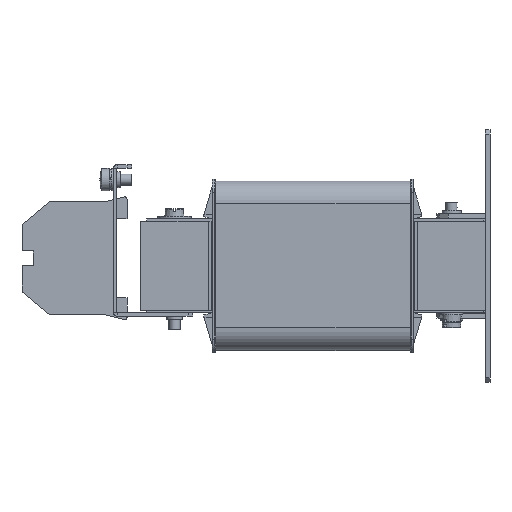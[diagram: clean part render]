
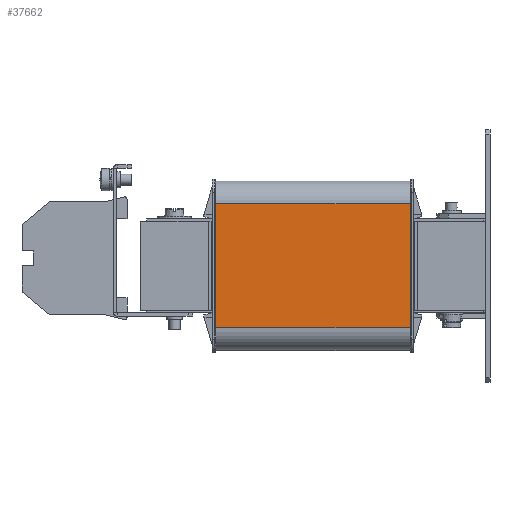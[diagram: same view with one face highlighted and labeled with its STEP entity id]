
A CAD part, left-side view. The second image highlights one B-rep face of the part: STEP entity #37662.
In plain terms, the highlighted planar face has unit normal (-1, 0, 0).
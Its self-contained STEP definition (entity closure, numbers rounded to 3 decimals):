
#717 = CARTESIAN_POINT ( 'NONE',  ( 0., 86.2, 0. ) ) ;
#7134 = VECTOR ( 'NONE', #50091, 1000. ) ;
#8039 = EDGE_CURVE ( 'NONE', #17326, #28174, #32970, .T. ) ;
#9481 = CARTESIAN_POINT ( 'NONE',  ( 0., 86.2, -65. ) ) ;
#9630 = CARTESIAN_POINT ( 'NONE',  ( 0., 86.2, -65. ) ) ;
#10076 = DIRECTION ( 'NONE',  ( 0., 0., 1. ) ) ;
#10219 = EDGE_LOOP ( 'NONE', ( #37893, #32401, #27591, #22294 ) ) ;
#11980 = CARTESIAN_POINT ( 'NONE',  ( 0., 86.2, -10. ) ) ;
#13079 = EDGE_CURVE ( 'NONE', #44719, #23030, #34241, .T. ) ;
#13463 = DIRECTION ( 'NONE',  ( 0., 0., -1. ) ) ;
#13537 = DIRECTION ( 'NONE',  ( 1., 0., 0. ) ) ;
#14701 = CARTESIAN_POINT ( 'NONE',  ( 0., 86.2, 0. ) ) ;
#15566 = PLANE ( 'NONE',  #27764 ) ;
#17326 = VERTEX_POINT ( 'NONE', #9630 ) ;
#18002 = EDGE_CURVE ( 'NONE', #17326, #44719, #40546, .T. ) ;
#18472 = VECTOR ( 'NONE', #31879, 1000. ) ;
#21661 = CARTESIAN_POINT ( 'NONE',  ( 0., 0., 0. ) ) ;
#22294 = ORIENTED_EDGE ( 'NONE', *, *, #45227, .T. ) ;
#23030 = VERTEX_POINT ( 'NONE', #28239 ) ;
#24175 = LINE ( 'NONE', #11980, #18472 ) ;
#27358 = CARTESIAN_POINT ( 'NONE',  ( 0., 86.2, -10. ) ) ;
#27591 = ORIENTED_EDGE ( 'NONE', *, *, #13079, .T. ) ;
#27764 = AXIS2_PLACEMENT_3D ( 'NONE', #14701, #13537, #13463 ) ;
#28174 = VERTEX_POINT ( 'NONE', #27358 ) ;
#28239 = CARTESIAN_POINT ( 'NONE',  ( 0., 0., -10. ) ) ;
#31879 = DIRECTION ( 'NONE',  ( 0., 1., 0. ) ) ;
#32401 = ORIENTED_EDGE ( 'NONE', *, *, #18002, .T. ) ;
#32970 = LINE ( 'NONE', #717, #33034 ) ;
#33034 = VECTOR ( 'NONE', #43518, 1000. ) ;
#34241 = LINE ( 'NONE', #21661, #34290 ) ;
#34290 = VECTOR ( 'NONE', #10076, 1000. ) ;
#37096 = CARTESIAN_POINT ( 'NONE',  ( 0., 0., -65. ) ) ;
#37662 = ADVANCED_FACE ( 'NONE', ( #47175 ), #15566, .F. ) ;
#37893 = ORIENTED_EDGE ( 'NONE', *, *, #8039, .F. ) ;
#40546 = LINE ( 'NONE', #9481, #7134 ) ;
#43518 = DIRECTION ( 'NONE',  ( 0., 0., 1. ) ) ;
#44719 = VERTEX_POINT ( 'NONE', #37096 ) ;
#45227 = EDGE_CURVE ( 'NONE', #23030, #28174, #24175, .T. ) ;
#47175 = FACE_OUTER_BOUND ( 'NONE', #10219, .T. ) ;
#50091 = DIRECTION ( 'NONE',  ( 0., -1., 0. ) ) ;
